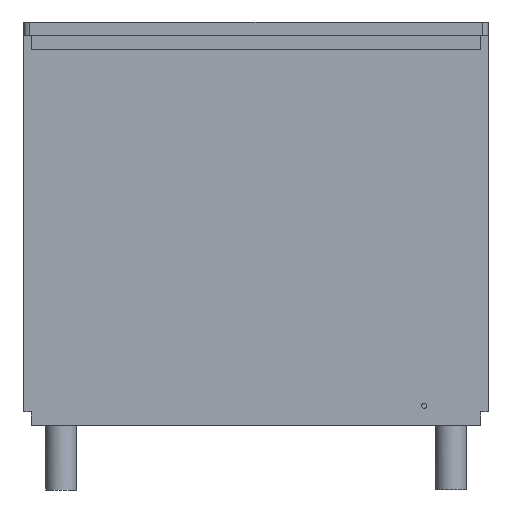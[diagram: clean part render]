
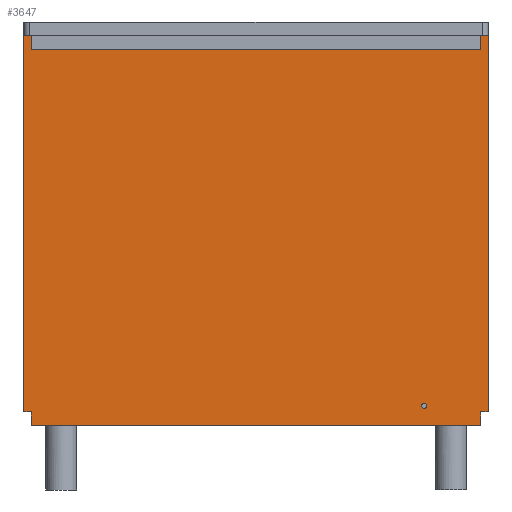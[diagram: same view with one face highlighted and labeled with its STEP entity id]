
A CAD part, left-side view. The second image highlights one B-rep face of the part: STEP entity #3647.
In plain terms, the highlighted planar face has unit normal (-1, 0, 0).
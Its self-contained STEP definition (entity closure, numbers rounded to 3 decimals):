
#209=CIRCLE('',#5355,5.);
#605=ORIENTED_EDGE('',*,*,#1544,.F.);
#606=ORIENTED_EDGE('',*,*,#1545,.T.);
#607=ORIENTED_EDGE('',*,*,#1546,.T.);
#608=ORIENTED_EDGE('',*,*,#1547,.F.);
#609=ORIENTED_EDGE('',*,*,#1548,.T.);
#610=ORIENTED_EDGE('',*,*,#1549,.T.);
#611=ORIENTED_EDGE('',*,*,#1550,.F.);
#612=ORIENTED_EDGE('',*,*,#1551,.F.);
#613=ORIENTED_EDGE('',*,*,#1552,.F.);
#614=ORIENTED_EDGE('',*,*,#1553,.F.);
#615=ORIENTED_EDGE('',*,*,#1554,.T.);
#616=ORIENTED_EDGE('',*,*,#1555,.T.);
#617=ORIENTED_EDGE('',*,*,#1556,.F.);
#1544=EDGE_CURVE('',#2039,#2040,#2368,.T.);
#1545=EDGE_CURVE('',#2039,#2041,#2369,.T.);
#1546=EDGE_CURVE('',#2041,#2042,#2370,.T.);
#1547=EDGE_CURVE('',#2043,#2042,#2371,.T.);
#1548=EDGE_CURVE('',#2043,#2044,#2372,.T.);
#1549=EDGE_CURVE('',#2044,#2045,#2373,.T.);
#1550=EDGE_CURVE('',#2046,#2045,#2374,.T.);
#1551=EDGE_CURVE('',#2047,#2046,#2375,.T.);
#1552=EDGE_CURVE('',#2048,#2047,#2376,.T.);
#1553=EDGE_CURVE('',#2049,#2048,#2377,.T.);
#1554=EDGE_CURVE('',#2049,#2050,#2378,.T.);
#1555=EDGE_CURVE('',#2050,#2040,#2379,.T.);
#1556=EDGE_CURVE('',#2051,#2051,#209,.T.);
#2039=VERTEX_POINT('',#7016);
#2040=VERTEX_POINT('',#7017);
#2041=VERTEX_POINT('',#7019);
#2042=VERTEX_POINT('',#7021);
#2043=VERTEX_POINT('',#7023);
#2044=VERTEX_POINT('',#7025);
#2045=VERTEX_POINT('',#7027);
#2046=VERTEX_POINT('',#7029);
#2047=VERTEX_POINT('',#7031);
#2048=VERTEX_POINT('',#7033);
#2049=VERTEX_POINT('',#7035);
#2050=VERTEX_POINT('',#7037);
#2051=VERTEX_POINT('',#7040);
#2368=LINE('',#7015,#2659);
#2369=LINE('',#7018,#2660);
#2370=LINE('',#7020,#2661);
#2371=LINE('',#7022,#2662);
#2372=LINE('',#7024,#2663);
#2373=LINE('',#7026,#2664);
#2374=LINE('',#7028,#2665);
#2375=LINE('',#7030,#2666);
#2376=LINE('',#7032,#2667);
#2377=LINE('',#7034,#2668);
#2378=LINE('',#7036,#2669);
#2379=LINE('',#7038,#2670);
#2659=VECTOR('',#5889,1000.);
#2660=VECTOR('',#5890,1000.);
#2661=VECTOR('',#5891,1000.);
#2662=VECTOR('',#5892,1000.);
#2663=VECTOR('',#5893,1000.);
#2664=VECTOR('',#5894,1000.);
#2665=VECTOR('',#5895,1000.);
#2666=VECTOR('',#5896,1000.);
#2667=VECTOR('',#5897,1000.);
#2668=VECTOR('',#5898,1000.);
#2669=VECTOR('',#5899,1000.);
#2670=VECTOR('',#5900,1000.);
#2974=EDGE_LOOP('',(#605,#606,#607,#608,#609,#610,#611,#612,#613,#614,#615,
#616));
#2975=EDGE_LOOP('',(#617));
#3255=FACE_BOUND('',#2974,.T.);
#3256=FACE_BOUND('',#2975,.T.);
#3494=PLANE('',#5354);
#3647=ADVANCED_FACE('',(#3255,#3256),#3494,.T.);
#5354=AXIS2_PLACEMENT_3D('',#7014,#5887,#5888);
#5355=AXIS2_PLACEMENT_3D('',#7039,#5901,#5902);
#5887=DIRECTION('',(-1.,0.,0.));
#5888=DIRECTION('',(0.,0.,1.));
#5889=DIRECTION('',(0.,1.,0.));
#5890=DIRECTION('',(0.,0.,-1.));
#5891=DIRECTION('',(0.,-1.,0.));
#5892=DIRECTION('',(0.,0.,-1.));
#5893=DIRECTION('',(0.,-1.,0.));
#5894=DIRECTION('',(0.,0.,1.));
#5895=DIRECTION('',(0.,-1.,0.));
#5896=DIRECTION('',(0.,0.,1.));
#5897=DIRECTION('',(0.,-1.,0.));
#5898=DIRECTION('',(0.,0.,-1.));
#5899=DIRECTION('',(0.,1.,0.));
#5900=DIRECTION('',(0.,0.,-1.));
#5901=DIRECTION('',(-1.,0.,0.));
#5902=DIRECTION('',(0.,-1.,0.));
#7014=CARTESIAN_POINT('',(-498.683,1365.014,549.067));
#7015=CARTESIAN_POINT('',(-498.683,1365.014,-178.933));
#7016=CARTESIAN_POINT('',(-498.683,1365.014,-178.933));
#7017=CARTESIAN_POINT('',(-498.683,1380.014,-178.933));
#7018=CARTESIAN_POINT('',(-498.683,1365.014,521.067));
#7019=CARTESIAN_POINT('',(-498.683,1365.014,-204.933));
#7020=CARTESIAN_POINT('',(-498.683,1365.014,-204.933));
#7021=CARTESIAN_POINT('',(-498.683,497.014,-204.933));
#7022=CARTESIAN_POINT('',(-498.683,497.014,521.067));
#7023=CARTESIAN_POINT('',(-498.683,497.014,-178.933));
#7024=CARTESIAN_POINT('',(-498.683,497.014,-178.933));
#7025=CARTESIAN_POINT('',(-498.683,482.014,-178.933));
#7026=CARTESIAN_POINT('',(-498.683,482.014,-178.933));
#7027=CARTESIAN_POINT('',(-498.683,482.014,549.067));
#7028=CARTESIAN_POINT('',(-498.683,497.014,549.067));
#7029=CARTESIAN_POINT('',(-498.683,497.014,549.067));
#7030=CARTESIAN_POINT('',(-498.683,497.014,-178.933));
#7031=CARTESIAN_POINT('',(-498.683,497.014,521.067));
#7032=CARTESIAN_POINT('',(-498.683,1365.014,521.067));
#7033=CARTESIAN_POINT('',(-498.683,1365.014,521.067));
#7034=CARTESIAN_POINT('',(-498.683,1365.014,549.067));
#7035=CARTESIAN_POINT('',(-498.683,1365.014,549.067));
#7036=CARTESIAN_POINT('',(-498.683,1365.014,549.067));
#7037=CARTESIAN_POINT('',(-498.683,1380.014,549.067));
#7038=CARTESIAN_POINT('',(-498.683,1380.014,549.067));
#7039=CARTESIAN_POINT('',(-498.683,606.014,-166.933));
#7040=CARTESIAN_POINT('',(-498.683,601.014,-166.933));
